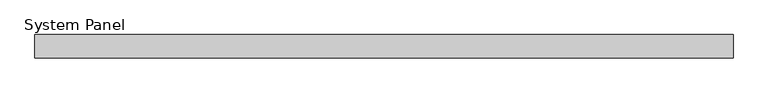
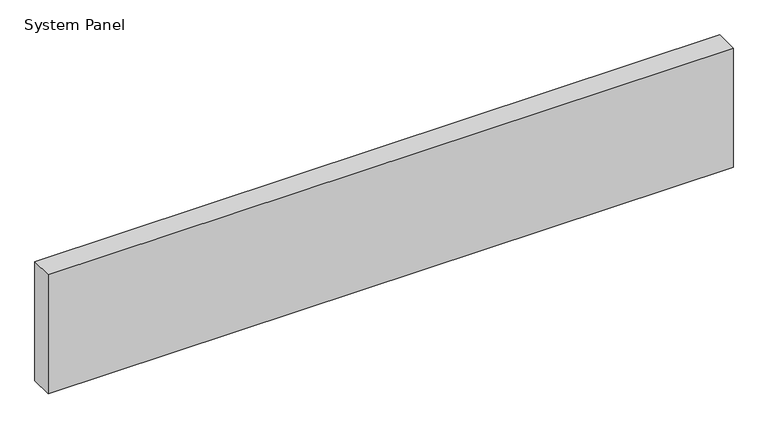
"""IFC4 building model written with IfcOpenShell, lengths in millimetres: plate geometry, System Panel : MetecnoPanel 200mm Horizontal - Plain Astro - PIR."""

from ifc_helpers import new_model, si_unit, origin, origin_with_axes, place, context, project, spatial, polyline, outline, extrude, source, transform, mapped, element, save


def system_panel_d6a3c3b5(model_context):
    return source(origin(), model_context, "Body", "SweptSolid", [
        extrude(outline(polyline([(2995.0, 0.0), (-2995.0, 0.0), (-2995.0, 200.0), (2995.0, 200.0), (2995.0, 0.0)])), origin_with_axes(), (0.0, 0.0, 1.0), 1100.0),
    ])


if __name__ == "__main__":
    model = new_model("IFC4")
    model_context = context("Model", 3, world=origin())
    ifc_project = project(units=[si_unit("LENGTHUNIT", "METRE", prefix="MILLI")], contexts=[model_context])
    site = spatial("IfcSite", under=ifc_project)
    building = spatial("IfcBuilding", under=site)
    placement = place(None, origin())
    system_panel_shape = system_panel_d6a3c3b5(model_context)
    element("IfcPlate", 1, ObjectType="System Panel : MetecnoPanel 200mm Horizontal - Plain Astro - PIR", at=placement, inside=building, context=model_context, shape_type="MappedRepresentation", body=[
        mapped(system_panel_shape, transform((0.0, 0.0, 0.0), x_axis=(1.0, 0.0, 0.0), y_axis=(0.0, 1.0, 0.0), z_axis=(0.0, 0.0, 1.0))),
    ])
    save(model, "model.ifc")
